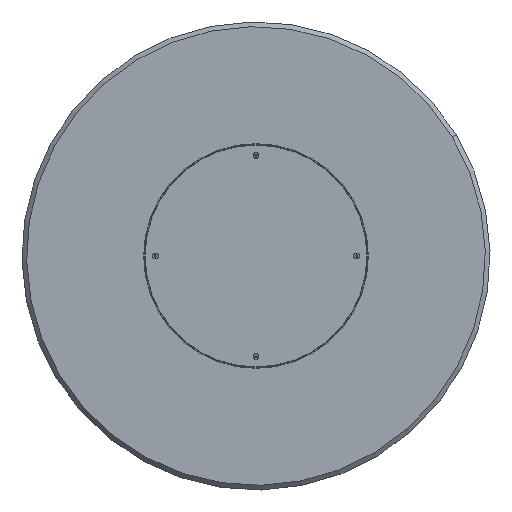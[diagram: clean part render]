
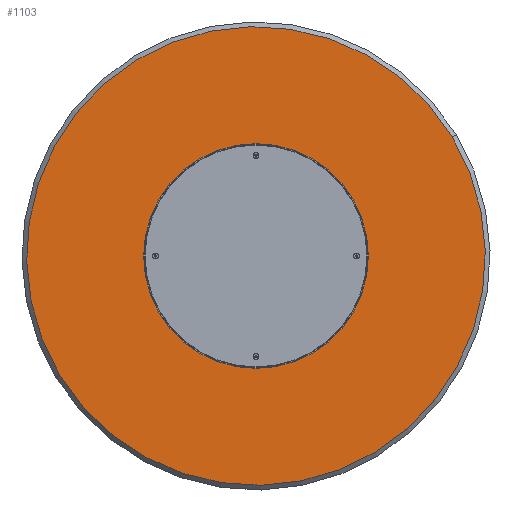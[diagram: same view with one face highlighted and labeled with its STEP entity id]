
A CAD part, front view. The second image highlights one B-rep face of the part: STEP entity #1103.
In plain terms, the highlighted planar face has unit normal (0, -1, 0).
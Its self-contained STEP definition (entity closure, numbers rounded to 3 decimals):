
#21 = DIRECTION ( 'NONE',  ( 0., -1., 0. ) ) ;
#78 = DIRECTION ( 'NONE',  ( 0., -1., 0. ) ) ;
#237 = CARTESIAN_POINT ( 'NONE',  ( 0., 0., 3.4 ) ) ;
#239 = ORIENTED_EDGE ( 'NONE', *, *, #2951, .F. ) ;
#323 = CIRCLE ( 'NONE', #6740, 3.4 ) ;
#463 = CARTESIAN_POINT ( 'NONE',  ( -95., 0., -54.848 ) ) ;
#752 = CARTESIAN_POINT ( 'NONE',  ( 0., 0., 106.297 ) ) ;
#761 = CIRCLE ( 'NONE', #7038, 3.4 ) ;
#773 = ORIENTED_EDGE ( 'NONE', *, *, #3883, .T. ) ;
#841 = DIRECTION ( 'NONE',  ( 0., 0., -1. ) ) ;
#857 = FACE_OUTER_BOUND ( 'NONE', #3236, .T. ) ;
#870 = CARTESIAN_POINT ( 'NONE',  ( -95., 0., -54.848 ) ) ;
#877 = DIRECTION ( 'NONE',  ( 0., -1., 0. ) ) ;
#1027 = FACE_BOUND ( 'NONE', #3598, .T. ) ;
#1048 = CIRCLE ( 'NONE', #3949, 3.4 ) ;
#1103 = ADVANCED_FACE ( 'NONE', ( #6429, #1027, #6882, #3843, #857 ), #7642, .T. ) ;
#1363 = EDGE_CURVE ( 'NONE', #4121, #7542, #1048, .T. ) ;
#1438 = ORIENTED_EDGE ( 'NONE', *, *, #1363, .F. ) ;
#1499 = DIRECTION ( 'NONE',  ( 0., -1., 0. ) ) ;
#1566 = AXIS2_PLACEMENT_3D ( 'NONE', #7119, #1828, #2331 ) ;
#1630 = DIRECTION ( 'NONE',  ( 0., -1., 0. ) ) ;
#1686 = DIRECTION ( 'NONE',  ( 0., -1., 0. ) ) ;
#1714 = EDGE_LOOP ( 'NONE', ( #3188, #3437 ) ) ;
#1828 = DIRECTION ( 'NONE',  ( 0., -1., 0. ) ) ;
#1917 = AXIS2_PLACEMENT_3D ( 'NONE', #5243, #1686, #2195 ) ;
#1931 = CARTESIAN_POINT ( 'NONE',  ( -95., 0., -51.448 ) ) ;
#2051 = CIRCLE ( 'NONE', #1566, 490. ) ;
#2135 = CARTESIAN_POINT ( 'NONE',  ( 95., 0., -54.848 ) ) ;
#2153 = EDGE_CURVE ( 'NONE', #3644, #4870, #2051, .T. ) ;
#2195 = DIRECTION ( 'NONE',  ( 0., 0., -1. ) ) ;
#2250 = DIRECTION ( 'NONE',  ( 0., 0., -1. ) ) ;
#2331 = DIRECTION ( 'NONE',  ( 0., 0., -1. ) ) ;
#2470 = DIRECTION ( 'NONE',  ( 0., 0., -1. ) ) ;
#2598 = DIRECTION ( 'NONE',  ( 0., -1., 0. ) ) ;
#2691 = AXIS2_PLACEMENT_3D ( 'NONE', #6909, #1499, #4545 ) ;
#2881 = ORIENTED_EDGE ( 'NONE', *, *, #2153, .T. ) ;
#2951 = EDGE_CURVE ( 'NONE', #6800, #7320, #5466, .T. ) ;
#3013 = CARTESIAN_POINT ( 'NONE',  ( 0., 0., 109.697 ) ) ;
#3021 = CIRCLE ( 'NONE', #6186, 3.4 ) ;
#3113 = AXIS2_PLACEMENT_3D ( 'NONE', #5140, #7541, #6367 ) ;
#3121 = VERTEX_POINT ( 'NONE', #4656 ) ;
#3153 = VERTEX_POINT ( 'NONE', #752 ) ;
#3167 = CARTESIAN_POINT ( 'NONE',  ( 95., 0., -58.248 ) ) ;
#3188 = ORIENTED_EDGE ( 'NONE', *, *, #3191, .F. ) ;
#3191 = EDGE_CURVE ( 'NONE', #6798, #4154, #6999, .T. ) ;
#3236 = EDGE_LOOP ( 'NONE', ( #2881, #773 ) ) ;
#3245 = CARTESIAN_POINT ( 'NONE',  ( 95., 0., -51.448 ) ) ;
#3293 = EDGE_CURVE ( 'NONE', #4154, #6798, #323, .T. ) ;
#3351 = EDGE_CURVE ( 'NONE', #7542, #4121, #7499, .T. ) ;
#3437 = ORIENTED_EDGE ( 'NONE', *, *, #3293, .F. ) ;
#3452 = DIRECTION ( 'NONE',  ( 0., 0., -1. ) ) ;
#3474 = CARTESIAN_POINT ( 'NONE',  ( 0., 0., -490. ) ) ;
#3580 = CARTESIAN_POINT ( 'NONE',  ( 0., 0., 0. ) ) ;
#3598 = EDGE_LOOP ( 'NONE', ( #7743, #1438 ) ) ;
#3644 = VERTEX_POINT ( 'NONE', #7401 ) ;
#3760 = ORIENTED_EDGE ( 'NONE', *, *, #7202, .F. ) ;
#3775 = DIRECTION ( 'NONE',  ( 0., 0., -1. ) ) ;
#3843 = FACE_BOUND ( 'NONE', #4753, .T. ) ;
#3883 = EDGE_CURVE ( 'NONE', #4870, #3644, #7018, .T. ) ;
#3949 = AXIS2_PLACEMENT_3D ( 'NONE', #6268, #877, #841 ) ;
#4121 = VERTEX_POINT ( 'NONE', #3245 ) ;
#4154 = VERTEX_POINT ( 'NONE', #1931 ) ;
#4253 = DIRECTION ( 'NONE',  ( 0., 0., -1. ) ) ;
#4380 = DIRECTION ( 'NONE',  ( 0., -1., 0. ) ) ;
#4430 = CARTESIAN_POINT ( 'NONE',  ( 0., 0., 109.697 ) ) ;
#4458 = AXIS2_PLACEMENT_3D ( 'NONE', #3580, #78, #2470 ) ;
#4545 = DIRECTION ( 'NONE',  ( 0., 0., -1. ) ) ;
#4566 = DIRECTION ( 'NONE',  ( 0., -1., 0. ) ) ;
#4656 = CARTESIAN_POINT ( 'NONE',  ( 0., 0., 113.097 ) ) ;
#4753 = EDGE_LOOP ( 'NONE', ( #3760, #239 ) ) ;
#4870 = VERTEX_POINT ( 'NONE', #3474 ) ;
#5140 = CARTESIAN_POINT ( 'NONE',  ( 0., 0., 0. ) ) ;
#5243 = CARTESIAN_POINT ( 'NONE',  ( 0., 0., 0. ) ) ;
#5466 = CIRCLE ( 'NONE', #2691, 3.4 ) ;
#5506 = ORIENTED_EDGE ( 'NONE', *, *, #6247, .F. ) ;
#5678 = EDGE_CURVE ( 'NONE', #3121, #3153, #3021, .T. ) ;
#5680 = DIRECTION ( 'NONE',  ( 0., 0., -1. ) ) ;
#5823 = CIRCLE ( 'NONE', #4458, 3.4 ) ;
#5854 = AXIS2_PLACEMENT_3D ( 'NONE', #2135, #4566, #3452 ) ;
#6186 = AXIS2_PLACEMENT_3D ( 'NONE', #3013, #21, #4253 ) ;
#6247 = EDGE_CURVE ( 'NONE', #3153, #3121, #761, .T. ) ;
#6268 = CARTESIAN_POINT ( 'NONE',  ( 95., 0., -54.848 ) ) ;
#6367 = DIRECTION ( 'NONE',  ( 0., 0., -1. ) ) ;
#6368 = AXIS2_PLACEMENT_3D ( 'NONE', #870, #4380, #3775 ) ;
#6429 = FACE_BOUND ( 'NONE', #1714, .T. ) ;
#6740 = AXIS2_PLACEMENT_3D ( 'NONE', #463, #1630, #2250 ) ;
#6798 = VERTEX_POINT ( 'NONE', #7417 ) ;
#6800 = VERTEX_POINT ( 'NONE', #237 ) ;
#6812 = ORIENTED_EDGE ( 'NONE', *, *, #5678, .F. ) ;
#6857 = CARTESIAN_POINT ( 'NONE',  ( 0., 0., -3.4 ) ) ;
#6882 = FACE_BOUND ( 'NONE', #7776, .T. ) ;
#6909 = CARTESIAN_POINT ( 'NONE',  ( 0., 0., 0. ) ) ;
#6999 = CIRCLE ( 'NONE', #6368, 3.4 ) ;
#7018 = CIRCLE ( 'NONE', #3113, 490. ) ;
#7038 = AXIS2_PLACEMENT_3D ( 'NONE', #4430, #2598, #5680 ) ;
#7119 = CARTESIAN_POINT ( 'NONE',  ( 0., 0., 0. ) ) ;
#7202 = EDGE_CURVE ( 'NONE', #7320, #6800, #5823, .T. ) ;
#7320 = VERTEX_POINT ( 'NONE', #6857 ) ;
#7401 = CARTESIAN_POINT ( 'NONE',  ( 0., 0., 490. ) ) ;
#7417 = CARTESIAN_POINT ( 'NONE',  ( -95., 0., -58.248 ) ) ;
#7499 = CIRCLE ( 'NONE', #5854, 3.4 ) ;
#7541 = DIRECTION ( 'NONE',  ( 0., -1., 0. ) ) ;
#7542 = VERTEX_POINT ( 'NONE', #3167 ) ;
#7642 = PLANE ( 'NONE',  #1917 ) ;
#7743 = ORIENTED_EDGE ( 'NONE', *, *, #3351, .F. ) ;
#7776 = EDGE_LOOP ( 'NONE', ( #5506, #6812 ) ) ;
